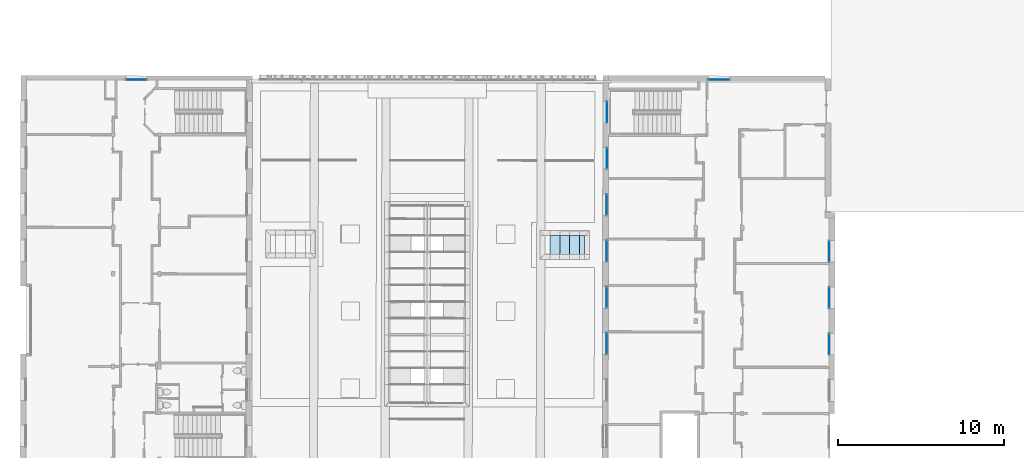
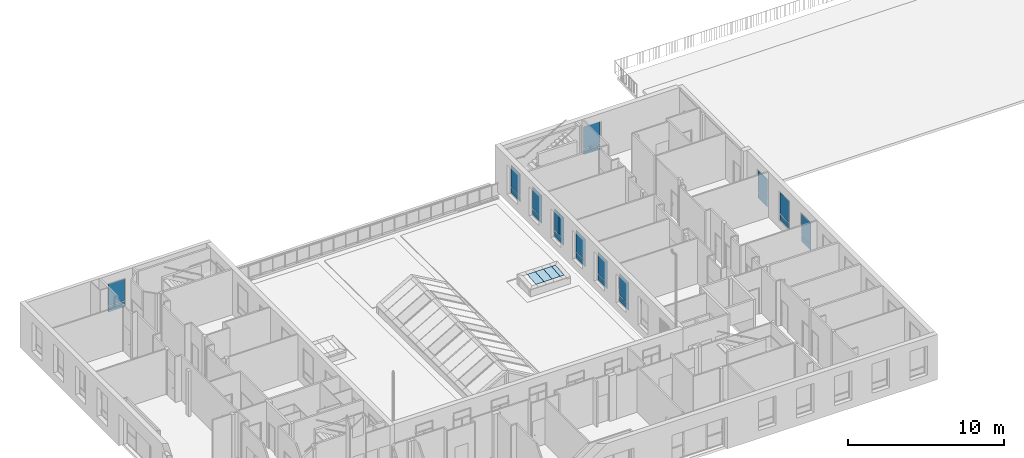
# One storey, part 39 of 101: 27 plates, 12 elements without a shape of their own.
"""IFC2X3 building model written with IfcOpenShell, lengths in metres."""

from ifc_helpers import new_model, entity, si_unit, converted_unit, derived_unit, direction, frame, frame_2d, origin, place, context, subcontext, project, spatial, polyline, rectangle, outline, extrude, source, transform, mapped, material, layer, layer_set, type_object, type_shapes, element, aggregate, save


model = new_model("IFC2X3")

# Units and contexts
model_context = context("Model", 3, precision=1e-05, world=origin(), true_north=direction((6.123233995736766e-17, 1.0)))
body_context = subcontext(model_context, "Body", "Model", "MODEL_VIEW")
ifc_project = project(units=[si_unit("LENGTHUNIT", "METRE"), si_unit("AREAUNIT", "SQUARE_METRE"), converted_unit("PLANEANGLEUNIT", "DEGREE", entity("IfcPlaneAngleMeasure", 0.017453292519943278), si_unit("PLANEANGLEUNIT", "RADIAN"), dimensions=[0, 0, 0, 0, 0, 0, 0]), derived_unit("THERMALTRANSMITTANCEUNIT", [(si_unit("MASSUNIT", "GRAM", prefix="KILO"), 1), (si_unit("THERMODYNAMICTEMPERATUREUNIT", "KELVIN"), -1), (si_unit("TIMEUNIT", "SECOND"), -3)])], contexts=[model_context])

# Site, building, storey
site_placement = place(None, frame((1253.6752467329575, 2072.143113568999, 91.49999999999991), z_axis=(0.0, 0.0, 1.0), x_axis=(0.7237211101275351, 0.6900925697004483, 0.0)))
site = spatial("IfcSite", under=ifc_project, at=site_placement, Name="Surface", CompositionType="ELEMENT")
building_placement = place(site_placement, origin())
building = spatial("IfcBuilding", under=site, at=building_placement, CompositionType="ELEMENT")
storey_placement = place(building_placement, origin())
storey = spatial("IfcBuildingStorey", under=building, at=storey_placement, Name="0- Rdc", CompositionType="ELEMENT", Elevation=-5.764692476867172e-13)

# Curtain wall, plate
curtain_wall_type_1 = type_object("IfcCurtainWallType", Name="Mur-rideau:Menuiserie Ext 1F+1OB VERTIC", PredefinedType="NOTDEFINED")
curtain_wall_1_placement = place(storey_placement, origin())
curtain_wall_1 = element("IfcCurtainWall", 1, at=curtain_wall_1_placement, inside=storey, type_object=curtain_wall_type_1, Name="Mur-rideau:Menuiserie Ext 1F+1OB VERTIC", ObjectType="Mur-rideau:Menuiserie Ext 1F+1OB VERTIC")
ifc_material = material(Name="Verre")
ifc_layer = layer(ifc_material, 0.01)
ifc_layer_set = layer_set([ifc_layer], Name="Panneau système:Vitré")
plate_type_1 = type_object("IfcPlateType", Name="Panneau système:Vitré", PredefinedType="CURTAIN_PANEL", material=ifc_layer_set)
shared_shape_1 = source(origin(), body_context, "Body", "SweptSolid", [
    extrude(rectangle(XDim=0.01, YDim=1.199695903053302, at=frame_2d((0.0, -4.163336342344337e-15), x_axis=(1.0, 0.0))), frame((0.0, 0.0, 0.0), z_axis=(0.0, 0.0, 1.0), x_axis=(0.0, 1.0, 0.0)), (0.0, 0.0, 1.0), 0.44499999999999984),
])
type_shapes(plate_type_1, [shared_shape_1])
plate_1_placement = place(curtain_wall_1_placement, frame((190.28250266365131, 1.6906647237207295, 0.6699999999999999), z_axis=(0.0, 0.0, 1.0), x_axis=(0.6913353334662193, 0.7225340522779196, 0.0)))
plate_1 = element("IfcPlate", 2, at=plate_1_placement, type_object=plate_type_1, material=ifc_material, Name="Panneau système:Vitré", ObjectType="Panneau système:Vitré", context=body_context, shape_type="MappedRepresentation", body=[
    mapped(shared_shape_1, transform((0.0, 0.0, 0.0), scale=1.0)),
])

curtain_wall_2_placement = place(storey_placement, origin())
curtain_wall_2 = element("IfcCurtainWall", 3, at=curtain_wall_2_placement, inside=storey, type_object=curtain_wall_type_1, Name="Mur-rideau:Menuiserie Ext 1F+1OB VERTIC", ObjectType="Mur-rideau:Menuiserie Ext 1F+1OB VERTIC")
plate_2_placement = place(curtain_wall_2_placement, frame((188.34697396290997, -0.33221090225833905, 0.6699999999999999), z_axis=(0.0, 0.0, 1.0), x_axis=(0.6913353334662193, 0.7225340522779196, 0.0)))
plate_2 = element("IfcPlate", 4, at=plate_2_placement, type_object=plate_type_1, material=ifc_material, Name="Panneau système:Vitré", ObjectType="Panneau système:Vitré", context=body_context, shape_type="MappedRepresentation", body=[
    mapped(shared_shape_1, transform((0.0, 0.0, 0.0), scale=1.0)),
])

curtain_wall_3_placement = place(storey_placement, origin())
curtain_wall_3 = element("IfcCurtainWall", 5, at=curtain_wall_3_placement, inside=storey, type_object=curtain_wall_type_1, Name="Mur-rideau:Menuiserie Ext 1F+1OB VERTIC", ObjectType="Mur-rideau:Menuiserie Ext 1F+1OB VERTIC")
plate_3_placement = place(curtain_wall_3_placement, frame((194.19721053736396, -13.671355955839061, 0.6699999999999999), z_axis=(0.0, 0.0, 1.0), x_axis=(0.6909838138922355, 0.7228702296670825, 0.0)))
plate_3 = element("IfcPlate", 6, at=plate_3_placement, type_object=plate_type_1, material=ifc_material, Name="Panneau système:Vitré", ObjectType="Panneau système:Vitré", context=body_context, shape_type="MappedRepresentation", body=[
    mapped(shared_shape_1, transform((0.0, 0.0, 0.0), scale=1.0)),
])

curtain_wall_4_placement = place(storey_placement, origin())
curtain_wall_4 = element("IfcCurtainWall", 7, at=curtain_wall_4_placement, inside=storey, type_object=curtain_wall_type_1, Name="Mur-rideau:Menuiserie Ext 1F+1OB VERTIC", ObjectType="Mur-rideau:Menuiserie Ext 1F+1OB VERTIC")
plate_4_placement = place(curtain_wall_4_placement, frame((192.26245585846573, -15.695392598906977, 0.6699999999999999), z_axis=(0.0, 0.0, 1.0), x_axis=(0.6909838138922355, 0.7228702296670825, 0.0)))
plate_4 = element("IfcPlate", 8, at=plate_4_placement, type_object=plate_type_1, material=ifc_material, Name="Panneau système:Vitré", ObjectType="Panneau système:Vitré", context=body_context, shape_type="MappedRepresentation", body=[
    mapped(shared_shape_1, transform((0.0, 0.0, 0.0), scale=1.0)),
])

curtain_wall_5_placement = place(storey_placement, origin())
curtain_wall_5 = element("IfcCurtainWall", 9, at=curtain_wall_5_placement, inside=storey, type_object=curtain_wall_type_1, Name="Mur-rideau:Menuiserie Ext 1F+1OB VERTIC", ObjectType="Mur-rideau:Menuiserie Ext 1F+1OB VERTIC")
plate_5_placement = place(curtain_wall_5_placement, frame((190.32770117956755, -17.719429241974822, 0.6699999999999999), z_axis=(0.0, 0.0, 1.0), x_axis=(0.6909838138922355, 0.7228702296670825, 0.0)))
plate_5 = element("IfcPlate", 10, at=plate_5_placement, type_object=plate_type_1, material=ifc_material, Name="Panneau système:Vitré", ObjectType="Panneau système:Vitré", context=body_context, shape_type="MappedRepresentation", body=[
    mapped(shared_shape_1, transform((0.0, 0.0, 0.0), scale=1.0)),
])

# Plate
plate_type_2 = type_object("IfcPlateType", Name="Panneau système:Vitré", PredefinedType="CURTAIN_PANEL", material=ifc_layer_set)
shared_shape_2 = source(origin(), body_context, "Body", "SweptSolid", [
    extrude(rectangle(XDim=0.01, YDim=1.199695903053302, at=frame_2d((0.0, -4.163336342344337e-15), x_axis=(1.0, 0.0))), frame((0.0, 0.0, 0.0), z_axis=(0.0, 0.0, 1.0), x_axis=(0.0, 1.0, 0.0)), (0.0, 0.0, 1.0), 1.6849999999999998),
])
type_shapes(plate_type_2, [shared_shape_2])
plate_6_placement = place(curtain_wall_1_placement, frame((190.28250266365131, 1.6906647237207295, 1.1649999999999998), z_axis=(0.0, 0.0, 1.0), x_axis=(0.6913353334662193, 0.7225340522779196, 0.0)))
plate_6 = element("IfcPlate", 11, at=plate_6_placement, type_object=plate_type_2, material=ifc_material, Name="Panneau système:Vitré", ObjectType="Panneau système:Vitré", context=body_context, shape_type="MappedRepresentation", body=[
    mapped(shared_shape_2, transform((0.0, 0.0, 0.0), scale=1.0)),
])

aggregate(curtain_wall_1, [plate_1, plate_6])

plate_7_placement = place(curtain_wall_2_placement, frame((188.34697396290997, -0.33221090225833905, 1.1649999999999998), z_axis=(0.0, 0.0, 1.0), x_axis=(0.6913353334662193, 0.7225340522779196, 0.0)))
plate_7 = element("IfcPlate", 12, at=plate_7_placement, type_object=plate_type_2, material=ifc_material, Name="Panneau système:Vitré", ObjectType="Panneau système:Vitré", context=body_context, shape_type="MappedRepresentation", body=[
    mapped(shared_shape_2, transform((0.0, 0.0, 0.0), scale=1.0)),
])

aggregate(curtain_wall_2, [plate_2, plate_7])

plate_8_placement = place(curtain_wall_3_placement, frame((194.19721053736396, -13.671355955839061, 1.1649999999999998), z_axis=(0.0, 0.0, 1.0), x_axis=(0.6909838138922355, 0.7228702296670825, 0.0)))
plate_8 = element("IfcPlate", 13, at=plate_8_placement, type_object=plate_type_2, material=ifc_material, Name="Panneau système:Vitré", ObjectType="Panneau système:Vitré", context=body_context, shape_type="MappedRepresentation", body=[
    mapped(shared_shape_2, transform((0.0, 0.0, 0.0), scale=1.0)),
])

aggregate(curtain_wall_3, [plate_3, plate_8])

plate_9_placement = place(curtain_wall_4_placement, frame((192.26245585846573, -15.695392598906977, 1.1649999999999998), z_axis=(0.0, 0.0, 1.0), x_axis=(0.6909838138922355, 0.7228702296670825, 0.0)))
plate_9 = element("IfcPlate", 14, at=plate_9_placement, type_object=plate_type_2, material=ifc_material, Name="Panneau système:Vitré", ObjectType="Panneau système:Vitré", context=body_context, shape_type="MappedRepresentation", body=[
    mapped(shared_shape_2, transform((0.0, 0.0, 0.0), scale=1.0)),
])

aggregate(curtain_wall_4, [plate_4, plate_9])

plate_10_placement = place(curtain_wall_5_placement, frame((190.32770117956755, -17.719429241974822, 1.1649999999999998), z_axis=(0.0, 0.0, 1.0), x_axis=(0.6909838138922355, 0.7228702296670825, 0.0)))
plate_10 = element("IfcPlate", 15, at=plate_10_placement, type_object=plate_type_2, material=ifc_material, Name="Panneau système:Vitré", ObjectType="Panneau système:Vitré", context=body_context, shape_type="MappedRepresentation", body=[
    mapped(shared_shape_2, transform((0.0, 0.0, 0.0), scale=1.0)),
])

aggregate(curtain_wall_5, [plate_5, plate_10])

# Curtain wall, plates
curtain_wall_6_placement = place(storey_placement, origin())
curtain_wall_6 = element("IfcCurtainWall", 16, at=curtain_wall_6_placement, inside=storey, type_object=curtain_wall_type_1, Name="Mur-rideau:Menuiserie Ext 1F+1OB VERTIC", ObjectType="Mur-rideau:Menuiserie Ext 1F+1OB VERTIC")
plate_type_3 = type_object("IfcPlateType", Name="Panneau système:Vitré", PredefinedType="CURTAIN_PANEL", material=ifc_layer_set)
shared_shape_3 = source(origin(), body_context, "Body", "SweptSolid", [
    extrude(rectangle(XDim=0.44499999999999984, YDim=1.1996959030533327, at=frame_2d((0.0, -5.773159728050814e-15), x_axis=(1.0, 0.0))), frame((0.0, -0.005000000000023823, 0.22249999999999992), z_axis=(0.0, 1.0, 0.0), x_axis=(0.0, 0.0, 1.0)), (0.0, 0.0, 1.0), 0.01),
])
type_shapes(plate_type_3, [shared_shape_3])
plate_11_placement = place(curtain_wall_6_placement, frame((186.41123502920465, -2.3553062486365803, 0.6699999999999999), z_axis=(0.0, 0.0, 1.0), x_axis=(0.6913353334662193, 0.7225340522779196, 0.0)))
plate_11 = element("IfcPlate", 17, at=plate_11_placement, type_object=plate_type_3, material=ifc_material, Name="Panneau système:Vitré", ObjectType="Panneau système:Vitré", context=body_context, shape_type="MappedRepresentation", body=[
    mapped(shared_shape_3, transform((0.0, 0.0, 0.0), scale=1.0)),
])
plate_type_4 = type_object("IfcPlateType", Name="Panneau système:Vitré", PredefinedType="CURTAIN_PANEL", material=ifc_layer_set)
shared_shape_4 = source(origin(), body_context, "Body", "SweptSolid", [
    extrude(rectangle(XDim=0.01, YDim=0.5998479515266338, at=frame_2d((0.0, -4.163336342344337e-15), x_axis=(1.0, 0.0))), frame((0.0, 0.0, 0.0), z_axis=(0.0, 0.0, 1.0), x_axis=(0.0, 1.0, 0.0)), (0.0, 0.0, 1.0), 1.6849999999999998),
])
type_shapes(plate_type_4, [shared_shape_4])
plate_12_placement = place(curtain_wall_6_placement, frame((186.20388698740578, -2.5720115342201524, 1.1649999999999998), z_axis=(0.0, 0.0, 1.0), x_axis=(0.6913353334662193, 0.7225340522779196, 0.0)))
plate_12 = element("IfcPlate", 18, at=plate_12_placement, type_object=plate_type_4, material=ifc_material, Name="Panneau système:Vitré", ObjectType="Panneau système:Vitré", context=body_context, shape_type="MappedRepresentation", body=[
    mapped(shared_shape_4, transform((0.0, 0.0, 0.0), scale=1.0)),
])
plate_13_placement = place(curtain_wall_6_placement, frame((186.61858307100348, -2.138600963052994, 1.1649999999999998), z_axis=(0.0, 0.0, 1.0), x_axis=(0.6913353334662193, 0.7225340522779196, 0.0)))
plate_13 = element("IfcPlate", 19, at=plate_13_placement, type_object=plate_type_4, material=ifc_material, Name="Panneau système:Vitré", ObjectType="Panneau système:Vitré", context=body_context, shape_type="MappedRepresentation", body=[
    mapped(shared_shape_4, transform((0.0, 0.0, 0.0), scale=1.0)),
])
aggregate(curtain_wall_6, [plate_11, plate_12, plate_13])

curtain_wall_7_placement = place(storey_placement, origin())
curtain_wall_7 = element("IfcCurtainWall", 20, at=curtain_wall_7_placement, inside=storey, type_object=curtain_wall_type_1, Name="Mur-rideau:Menuiserie Ext 1F+1OB VERTIC", ObjectType="Mur-rideau:Menuiserie Ext 1F+1OB VERTIC")
plate_type_5 = type_object("IfcPlateType", Name="Panneau système:Vitré", PredefinedType="CURTAIN_PANEL", material=ifc_layer_set)
shared_shape_5 = source(origin(), body_context, "Body", "SweptSolid", [
    extrude(rectangle(XDim=0.01, YDim=1.2296432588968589, at=frame_2d((0.0, -2.55351295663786e-15), x_axis=(1.0, 0.0))), frame((0.0, 0.0, 0.0), z_axis=(0.0, 0.0, 1.0), x_axis=(0.0, 1.0, 0.0)), (0.0, 0.0, 1.0), 0.44499999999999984),
])
type_shapes(plate_type_5, [shared_shape_5])
plate_14_placement = place(curtain_wall_7_placement, frame((184.48584792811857, -4.367582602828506, 0.6699999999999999), z_axis=(0.0, 0.0, 1.0), x_axis=(0.6913353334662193, 0.7225340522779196, 0.0)))
plate_14 = element("IfcPlate", 21, at=plate_14_placement, type_object=plate_type_5, material=ifc_material, Name="Panneau système:Vitré", ObjectType="Panneau système:Vitré", context=body_context, shape_type="MappedRepresentation", body=[
    mapped(shared_shape_5, transform((0.0, 0.0, 0.0), scale=1.0)),
])
plate_type_6 = type_object("IfcPlateType", Name="Panneau système:Vitré", PredefinedType="CURTAIN_PANEL", material=ifc_layer_set)
shared_shape_6 = source(origin(), body_context, "Body", "SweptSolid", [
    extrude(rectangle(XDim=0.01, YDim=1.2296432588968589, at=frame_2d((0.0, -2.55351295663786e-15), x_axis=(1.0, 0.0))), frame((0.0, 0.0, 0.0), z_axis=(0.0, 0.0, 1.0), x_axis=(0.0, 1.0, 0.0)), (0.0, 0.0, 1.0), 1.6849999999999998),
])
type_shapes(plate_type_6, [shared_shape_6])
plate_15_placement = place(curtain_wall_7_placement, frame((184.48584792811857, -4.367582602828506, 1.1649999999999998), z_axis=(0.0, 0.0, 1.0), x_axis=(0.6913353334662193, 0.7225340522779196, 0.0)))
plate_15 = element("IfcPlate", 22, at=plate_15_placement, type_object=plate_type_6, material=ifc_material, Name="Panneau système:Vitré", ObjectType="Panneau système:Vitré", context=body_context, shape_type="MappedRepresentation", body=[
    mapped(shared_shape_6, transform((0.0, 0.0, 0.0), scale=1.0)),
])
aggregate(curtain_wall_7, [plate_14, plate_15])

curtain_wall_8_placement = place(storey_placement, origin())
curtain_wall_8 = element("IfcCurtainWall", 23, at=curtain_wall_8_placement, inside=storey, type_object=curtain_wall_type_1, Name="Mur-rideau:Menuiserie Ext 1F+1OB VERTIC", ObjectType="Mur-rideau:Menuiserie Ext 1F+1OB VERTIC")
plate_type_7 = type_object("IfcPlateType", Name="Panneau système:Vitré", PredefinedType="CURTAIN_PANEL", material=ifc_layer_set)
shared_shape_7 = source(origin(), body_context, "Body", "SweptSolid", [
    extrude(rectangle(XDim=0.01, YDim=1.2296429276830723, at=frame_2d((0.0, -1.5543122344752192e-15), x_axis=(1.0, 0.0))), frame((0.0, 0.0, 0.0), z_axis=(0.0, 0.0, 1.0), x_axis=(0.0, 1.0, 0.0)), (0.0, 0.0, 1.0), 0.44499999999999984),
])
type_shapes(plate_type_7, [shared_shape_7])
plate_16_placement = place(curtain_wall_8_placement, frame((182.5501088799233, -6.390678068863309, 0.6699999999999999), z_axis=(0.0, 0.0, 1.0), x_axis=(0.6913353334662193, 0.7225340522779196, 0.0)))
plate_16 = element("IfcPlate", 24, at=plate_16_placement, type_object=plate_type_7, material=ifc_material, Name="Panneau système:Vitré", ObjectType="Panneau système:Vitré", context=body_context, shape_type="MappedRepresentation", body=[
    mapped(shared_shape_7, transform((0.0, 0.0, 0.0), scale=1.0)),
])
plate_type_8 = type_object("IfcPlateType", Name="Panneau système:Vitré", PredefinedType="CURTAIN_PANEL", material=ifc_layer_set)
shared_shape_8 = source(origin(), body_context, "Body", "SweptSolid", [
    extrude(rectangle(XDim=0.01, YDim=1.2296429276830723, at=frame_2d((0.0, -1.5543122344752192e-15), x_axis=(1.0, 0.0))), frame((0.0, 0.0, 0.0), z_axis=(0.0, 0.0, 1.0), x_axis=(0.0, 1.0, 0.0)), (0.0, 0.0, 1.0), 1.6849999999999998),
])
type_shapes(plate_type_8, [shared_shape_8])
plate_17_placement = place(curtain_wall_8_placement, frame((182.5501088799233, -6.390678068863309, 1.1649999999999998), z_axis=(0.0, 0.0, 1.0), x_axis=(0.6913353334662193, 0.7225340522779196, 0.0)))
plate_17 = element("IfcPlate", 25, at=plate_17_placement, type_object=plate_type_8, material=ifc_material, Name="Panneau système:Vitré", ObjectType="Panneau système:Vitré", context=body_context, shape_type="MappedRepresentation", body=[
    mapped(shared_shape_8, transform((0.0, 0.0, 0.0), scale=1.0)),
])
aggregate(curtain_wall_8, [plate_16, plate_17])

curtain_wall_9_placement = place(storey_placement, origin())
curtain_wall_9 = element("IfcCurtainWall", 26, at=curtain_wall_9_placement, inside=storey, type_object=curtain_wall_type_1, Name="Mur-rideau:Menuiserie Ext 1F+1OB VERTIC", ObjectType="Mur-rideau:Menuiserie Ext 1F+1OB VERTIC")
plate_type_9 = type_object("IfcPlateType", Name="Panneau système:Vitré", PredefinedType="CURTAIN_PANEL", material=ifc_layer_set)
shared_shape_9 = source(origin(), body_context, "Body", "SweptSolid", [
    extrude(rectangle(XDim=0.01, YDim=1.2296425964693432, at=frame_2d((0.0, -2.220446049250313e-15), x_axis=(1.0, 0.0))), frame((0.0, 0.0, 0.0), z_axis=(0.0, 0.0, 1.0), x_axis=(0.0, 1.0, 0.0)), (0.0, 0.0, 1.0), 0.44499999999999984),
])
type_shapes(plate_type_9, [shared_shape_9])
plate_18_placement = place(curtain_wall_9_placement, frame((180.6143698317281, -8.413773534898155, 0.6699999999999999), z_axis=(0.0, 0.0, 1.0), x_axis=(0.6913353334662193, 0.7225340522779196, 0.0)))
plate_18 = element("IfcPlate", 27, at=plate_18_placement, type_object=plate_type_9, material=ifc_material, Name="Panneau système:Vitré", ObjectType="Panneau système:Vitré", context=body_context, shape_type="MappedRepresentation", body=[
    mapped(shared_shape_9, transform((0.0, 0.0, 0.0), scale=1.0)),
])
plate_type_10 = type_object("IfcPlateType", Name="Panneau système:Vitré", PredefinedType="CURTAIN_PANEL", material=ifc_layer_set)
shared_shape_10 = source(origin(), body_context, "Body", "SweptSolid", [
    extrude(rectangle(XDim=0.01, YDim=1.2296425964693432, at=frame_2d((0.0, -2.220446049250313e-15), x_axis=(1.0, 0.0))), frame((0.0, 0.0, 0.0), z_axis=(0.0, 0.0, 1.0), x_axis=(0.0, 1.0, 0.0)), (0.0, 0.0, 1.0), 1.6849999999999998),
])
type_shapes(plate_type_10, [shared_shape_10])
plate_19_placement = place(curtain_wall_9_placement, frame((180.6143698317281, -8.413773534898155, 1.1649999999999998), z_axis=(0.0, 0.0, 1.0), x_axis=(0.6913353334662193, 0.7225340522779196, 0.0)))
plate_19 = element("IfcPlate", 28, at=plate_19_placement, type_object=plate_type_10, material=ifc_material, Name="Panneau système:Vitré", ObjectType="Panneau système:Vitré", context=body_context, shape_type="MappedRepresentation", body=[
    mapped(shared_shape_10, transform((0.0, 0.0, 0.0), scale=1.0)),
])
aggregate(curtain_wall_9, [plate_18, plate_19])

curtain_wall_10_placement = place(storey_placement, origin())
curtain_wall_10 = element("IfcCurtainWall", 29, at=curtain_wall_10_placement, inside=storey, type_object=curtain_wall_type_1, Name="Mur-rideau:Menuiserie Ext 1F+1OB VERTIC", ObjectType="Mur-rideau:Menuiserie Ext 1F+1OB VERTIC")
plate_type_11 = type_object("IfcPlateType", Name="Panneau système:Vitré", PredefinedType="CURTAIN_PANEL", material=ifc_layer_set)
shared_shape_11 = source(origin(), body_context, "Body", "SweptSolid", [
    extrude(rectangle(XDim=0.01, YDim=1.199695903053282, at=frame_2d((0.0, 4.163336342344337e-15), x_axis=(1.0, 0.0))), frame((0.0, 0.0, 0.0), z_axis=(0.0, 0.0, 1.0), x_axis=(0.0, 1.0, 0.0)), (0.0, 0.0, 1.0), 0.44499999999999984),
])
type_shapes(plate_type_11, [shared_shape_11])
plate_20_placement = place(curtain_wall_10_placement, frame((171.06906676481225, 22.724057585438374, 0.6699999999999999), z_axis=(0.0, 0.0, 1.0), x_axis=(-0.7228702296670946, 0.6909838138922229, 0.0)))
plate_20 = element("IfcPlate", 30, at=plate_20_placement, type_object=plate_type_11, material=ifc_material, Name="Panneau système:Vitré", ObjectType="Panneau système:Vitré", context=body_context, shape_type="MappedRepresentation", body=[
    mapped(shared_shape_11, transform((0.0, 0.0, 0.0), scale=1.0)),
])
plate_type_12 = type_object("IfcPlateType", Name="Panneau système:Vitré", PredefinedType="CURTAIN_PANEL", material=ifc_layer_set)
shared_shape_12 = source(origin(), body_context, "Body", "SweptSolid", [
    extrude(rectangle(XDim=0.01, YDim=1.199695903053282, at=frame_2d((0.0, 4.163336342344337e-15), x_axis=(1.0, 0.0))), frame((0.0, 0.0, 0.0), z_axis=(0.0, 0.0, 1.0), x_axis=(0.0, 1.0, 0.0)), (0.0, 0.0, 1.0), 1.6849999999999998),
])
type_shapes(plate_type_12, [shared_shape_12])
plate_21_placement = place(curtain_wall_10_placement, frame((171.06906676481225, 22.724057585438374, 1.1649999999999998), z_axis=(0.0, 0.0, 1.0), x_axis=(-0.7228702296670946, 0.6909838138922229, 0.0)))
plate_21 = element("IfcPlate", 31, at=plate_21_placement, type_object=plate_type_12, material=ifc_material, Name="Panneau système:Vitré", ObjectType="Panneau système:Vitré", context=body_context, shape_type="MappedRepresentation", body=[
    mapped(shared_shape_12, transform((0.0, 0.0, 0.0), scale=1.0)),
])
aggregate(curtain_wall_10, [plate_20, plate_21])

curtain_wall_11_placement = place(storey_placement, origin())
curtain_wall_11 = element("IfcCurtainWall", 32, at=curtain_wall_11_placement, inside=storey, type_object=curtain_wall_type_1, Name="Mur-rideau:Menuiserie Ext 1F+1OB VERTIC", ObjectType="Mur-rideau:Menuiserie Ext 1F+1OB VERTIC")
plate_type_13 = type_object("IfcPlateType", Name="Panneau système:Vitré", PredefinedType="CURTAIN_PANEL", material=ifc_layer_set)
shared_shape_13 = source(origin(), body_context, "Body", "SweptSolid", [
    extrude(rectangle(XDim=0.01, YDim=1.233136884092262, at=frame_2d((0.0, 4.6074255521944e-15), x_axis=(1.0, 0.0))), frame((0.0, 0.0, 0.0), z_axis=(0.0, 0.0, 1.0), x_axis=(0.0, 1.0, 0.0)), (0.0, 0.0, 1.0), 0.44499999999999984),
])
type_shapes(plate_type_13, [shared_shape_13])
plate_22_placement = place(curtain_wall_11_placement, frame((196.53260269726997, -1.5549626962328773, 0.6699999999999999), z_axis=(0.0, 0.0, 1.0), x_axis=(-0.722229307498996, 0.6916536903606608, 0.0)))
plate_22 = element("IfcPlate", 33, at=plate_22_placement, type_object=plate_type_13, material=ifc_material, Name="Panneau système:Vitré", ObjectType="Panneau système:Vitré", context=body_context, shape_type="MappedRepresentation", body=[
    mapped(shared_shape_13, transform((0.0, 0.0, 0.0), scale=1.0)),
])
plate_type_14 = type_object("IfcPlateType", Name="Panneau système:Vitré", PredefinedType="CURTAIN_PANEL", material=ifc_layer_set)
shared_shape_14 = source(origin(), body_context, "Body", "SweptSolid", [
    extrude(rectangle(XDim=0.01, YDim=1.233136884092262, at=frame_2d((0.0, 4.6074255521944e-15), x_axis=(1.0, 0.0))), frame((0.0, 0.0, 0.0), z_axis=(0.0, 0.0, 1.0), x_axis=(0.0, 1.0, 0.0)), (0.0, 0.0, 1.0), 1.6849999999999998),
])
type_shapes(plate_type_14, [shared_shape_14])
plate_23_placement = place(curtain_wall_11_placement, frame((196.53260269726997, -1.5549626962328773, 1.1649999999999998), z_axis=(0.0, 0.0, 1.0), x_axis=(-0.722229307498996, 0.6916536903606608, 0.0)))
plate_23 = element("IfcPlate", 34, at=plate_23_placement, type_object=plate_type_14, material=ifc_material, Name="Panneau système:Vitré", ObjectType="Panneau système:Vitré", context=body_context, shape_type="MappedRepresentation", body=[
    mapped(shared_shape_14, transform((0.0, 0.0, 0.0), scale=1.0)),
])
aggregate(curtain_wall_11, [plate_22, plate_23])

# Roof, plates
curtain_wall_type_2 = type_object("IfcCurtainWallType", Name="Vitres inclinées:Toit en verre 1 m x 2 m", PredefinedType="NOTDEFINED")
roof_placement = place(storey_placement, origin())
roof = element("IfcRoof", 35, at=roof_placement, inside=storey, type_object=curtain_wall_type_2, Name="Vitres inclinées:Toit en verre 1 m x 2 m", ObjectType="Vitres inclinées:Toit en verre 1 m x 2 m", ShapeType="NOTDEFINED")
plate_type_15 = type_object("IfcPlateType", Name="Panneau système:Vitré", PredefinedType="CURTAIN_PANEL", material=ifc_layer_set)
shared_shape_15 = source(origin(), body_context, "Body", "SweptSolid", [
    extrude(outline(polyline([(-0.5671508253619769, -0.29864007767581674), (0.5672561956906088, -0.29864007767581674), (0.5670454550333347, 0.29864007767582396), (-0.5671508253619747, 0.2986400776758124), (-0.5671508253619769, -0.29864007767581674)])), frame((0.0, -0.005000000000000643, 0.5671508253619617), z_axis=(0.0, 1.0, 0.0), x_axis=(0.0, 0.0, 1.0)), (0.0, 0.0, 1.0), 0.01),
])
type_shapes(plate_type_15, [shared_shape_15])
plate_24_placement = place(roof_placement, frame((182.07008888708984, -2.3517853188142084, 0.285946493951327), z_axis=(0.6883544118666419, 0.7201194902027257, 0.08715574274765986), x_axis=(0.7228702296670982, -0.6909838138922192, 0.0)))
plate_24 = element("IfcPlate", 36, at=plate_24_placement, type_object=plate_type_15, material=ifc_material, Name="Panneau système:Vitré", ObjectType="Panneau système:Vitré", context=body_context, shape_type="MappedRepresentation", body=[
    mapped(shared_shape_15, transform((0.0, 0.0, 0.0), scale=1.0)),
])
plate_type_16 = type_object("IfcPlateType", Name="Panneau système:Vitré", PredefinedType="CURTAIN_PANEL", material=ifc_layer_set)
shared_shape_16 = source(origin(), body_context, "Body", "SweptSolid", [
    extrude(outline(polyline([(-0.5670454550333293, -0.2986400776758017), (0.567150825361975, -0.2986400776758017), (0.566940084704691, 0.29864007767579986), (-0.5670454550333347, 0.29864007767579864), (-0.5670454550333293, -0.2986400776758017)])), frame((0.0, -0.0049999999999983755, 0.567045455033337), z_axis=(0.0, 1.0, 0.0), x_axis=(0.0, 0.0, 1.0)), (0.0, 0.0, 1.0), 0.01),
])
type_shapes(plate_type_16, [shared_shape_16])
plate_25_placement = place(roof_placement, frame((182.5018449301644, -2.764496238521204, 0.28594649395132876), z_axis=(0.6883544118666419, 0.7201194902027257, 0.08715574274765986), x_axis=(0.7228702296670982, -0.6909838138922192, 0.0)))
plate_25 = element("IfcPlate", 37, at=plate_25_placement, type_object=plate_type_16, material=ifc_material, Name="Panneau système:Vitré", ObjectType="Panneau système:Vitré", context=body_context, shape_type="MappedRepresentation", body=[
    mapped(shared_shape_16, transform((0.0, 0.0, 0.0), scale=1.0)),
])
plate_type_17 = type_object("IfcPlateType", Name="Panneau système:Vitré", PredefinedType="CURTAIN_PANEL", material=ifc_layer_set)
shared_shape_17 = source(origin(), body_context, "Body", "SweptSolid", [
    extrude(outline(polyline([(-0.5669400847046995, -0.2986400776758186), (0.5670454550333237, -0.2986400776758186), (0.566834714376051, 0.29864007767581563), (-0.5669400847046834, 0.2986400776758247), (-0.5669400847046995, -0.2986400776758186)])), frame((0.0, -0.005000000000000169, 0.5669400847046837), z_axis=(0.0, 1.0, 0.0), x_axis=(0.0, 0.0, 1.0)), (0.0, 0.0, 1.0), 0.01),
])
type_shapes(plate_type_17, [shared_shape_17])
plate_26_placement = place(roof_placement, frame((182.93360097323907, -3.1772071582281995, 0.28594649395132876), z_axis=(0.6883544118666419, 0.7201194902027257, 0.08715574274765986), x_axis=(0.7228702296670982, -0.6909838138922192, 0.0)))
plate_26 = element("IfcPlate", 38, at=plate_26_placement, type_object=plate_type_17, material=ifc_material, Name="Panneau système:Vitré", ObjectType="Panneau système:Vitré", context=body_context, shape_type="MappedRepresentation", body=[
    mapped(shared_shape_17, transform((0.0, 0.0, 0.0), scale=1.0)),
])
plate_type_18 = type_object("IfcPlateType", Name="Panneau système:Vitré", PredefinedType="CURTAIN_PANEL", material=ifc_layer_set)
shared_shape_18 = source(origin(), body_context, "Body", "SweptSolid", [
    extrude(outline(polyline([(-0.5668611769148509, -0.14864007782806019), (0.5669136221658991, -0.14864007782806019), (0.5668087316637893, 0.14864007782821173), (-0.5668611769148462, 0.14864007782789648), (-0.5668611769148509, -0.14864007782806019)])), frame((0.0, -0.005000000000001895, 0.5668611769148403), z_axis=(0.0, 1.0, 0.0), x_axis=(0.0, 0.0, 1.0)), (0.0, 0.0, 1.0), 0.01),
])
type_shapes(plate_type_18, [shared_shape_18])
plate_27_placement = place(roof_placement, frame((183.25692648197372, -3.486270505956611, 0.28594649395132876), z_axis=(0.6883544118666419, 0.7201194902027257, 0.08715574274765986), x_axis=(0.7228702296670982, -0.6909838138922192, 0.0)))
plate_27 = element("IfcPlate", 39, at=plate_27_placement, type_object=plate_type_18, material=ifc_material, Name="Panneau système:Vitré", ObjectType="Panneau système:Vitré", context=body_context, shape_type="MappedRepresentation", body=[
    mapped(shared_shape_18, transform((0.0, 0.0, 0.0), scale=1.0)),
])
aggregate(roof, [plate_24, plate_25, plate_26, plate_27])

save(model, "model.ifc")
